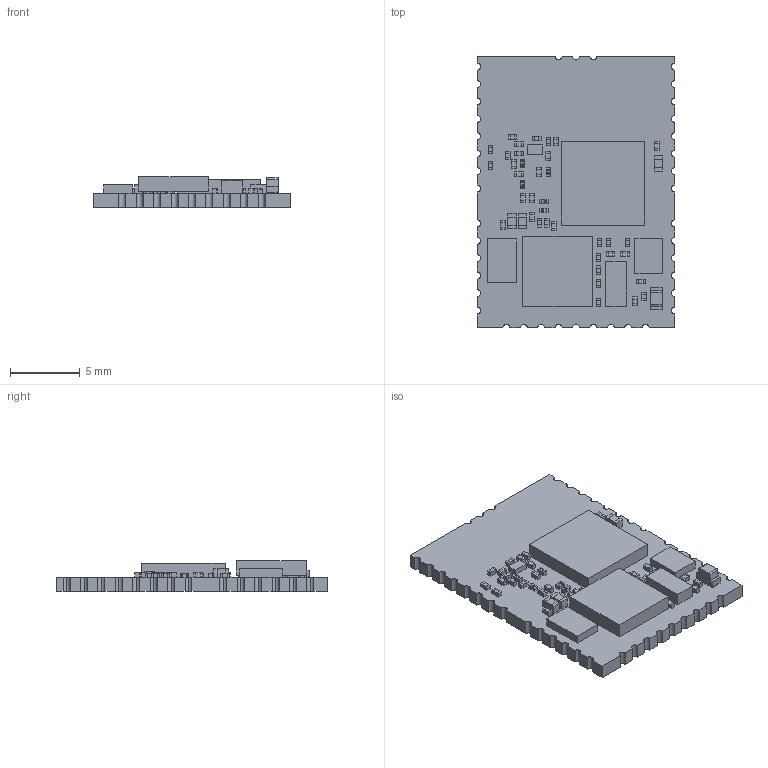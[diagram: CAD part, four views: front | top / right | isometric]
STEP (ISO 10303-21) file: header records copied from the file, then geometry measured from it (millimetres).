
FILE_DESCRIPTION(('Open CASCADE Model'),'2;1');
FILE_NAME('Open CASCADE Shape Model','2019-12-09T15:24:09',('Author'),( 'Open CASCADE'),'Open CASCADE STEP processor 6.8','Open CASCADE 6.8' ,'Unknown');
FILE_SCHEMA(('AUTOMOTIVE_DESIGN { 1 0 10303 214 1 1 1 1 }'));
Length unit declared in the file: millimetre
Products named in the file (82): PCB; Board; Open CASCADE STEP translator 6.8 3.1.1; Open CASCADE STEP translator 6.8 3.1.1.1; R202; 7818461024; Extruded; 7818461104; 7818449424; R201; D200; AP1608; L103; LQP03TN_06-62; U201; 7818450544; R200; C100; 7818456304; 7818453824; U200; 7818445824; R100; C122; R206; C210; 7818457344; C209; C208; C201; L102; L101; L100; C111; C110; C109; C106; C105; U100; 7818448384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
Assembly tree (185 placements, depth 4):
  PCB
    Board
      Open CASCADE STEP translator 6.8 3.1.1
        Open CASCADE STEP translator 6.8 3.1.1.1
    R202
      7818461024
        Extruded
      7818461104
        Extruded
      7818449424
        Extruded
    R201
      7818461024
        Extruded
      7818461104
        Extruded
      7818449424
        Extruded
    D200
      AP1608
    L103
      LQP03TN_06-62
    U201
      7818450544
        Extruded
    R200
      7818461024
        Extruded
      7818461104
        Extruded
      7818449424
        Extruded
    C100
      7818456304
        Extruded
      7818453824  x2
        Extruded
    U200
      7818445824
        Extruded
    R100
      7818461024
        Extruded
      7818461104
        Extruded
      7818449424
        Extruded
    C122
      7818456304
        Extruded
      7818453824  x2
        Extruded
    R206
      7818461024
        Extruded
      7818461104
        Extruded
      7818449424
        Extruded
    C210
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Bounding box: 14.2 x 19.5 x 2.22 mm (x, y, z)
Volume: 356.6 mm3; surface area: 933.1 mm2
Topology: 145 solids, 145 shells, 1322 faces, 2997 edges, 1998 vertices
Faces by surface type: plane 1137, bspline 116, cylinder 69
Entity records: 27207 total; most frequent: CARTESIAN_POINT 9527, ORIENTED_EDGE 2874, DIRECTION 2583, EDGE_CURVE 1437, LINE 1083, VECTOR 1083, VERTEX_POINT 958, AXIS2_PLACEMENT_3D 750
